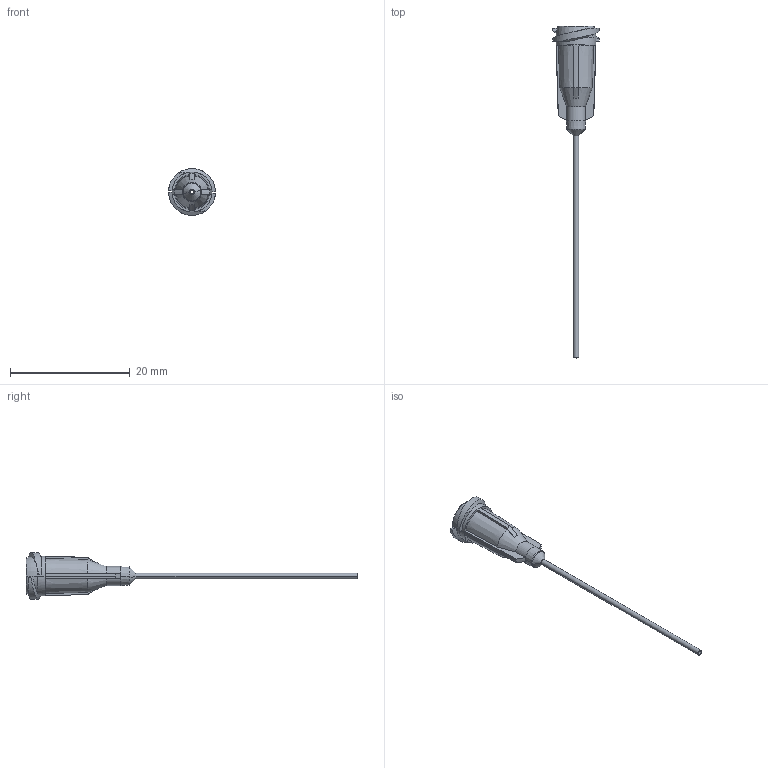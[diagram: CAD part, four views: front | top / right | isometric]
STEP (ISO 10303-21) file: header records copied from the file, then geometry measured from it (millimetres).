
FILE_DESCRIPTION (( 'STEP AP214' ), '1' );
FILE_NAME ('NORDSONEFD-7018168 TIP 20GA GP 023 X 15 PK.STEP', '2018-12-14T17:54:46', ( '' ), ( '' ), 'SwSTEP 2.0', 'SolidWorks 2018', '' );
FILE_SCHEMA (( 'AUTOMOTIVE_DESIGN' ));
Length unit declared in the file: inch
Products named in the file (1): NORDSONEFD-7018168 TIP 20GA GP 023 X 15 PK
Bounding box: 7.82 x 55.47 x 7.82 mm (x, y, z)
Volume: 276.3 mm3; surface area: 726.6 mm2
Topology: 1 solids, 1 shells, 98 faces, 232 edges, 140 vertices
Faces by surface type: plane 26, torus 22, cone 22, cylinder 16, bspline 12
Entity records: 3360 total; most frequent: CARTESIAN_POINT 1005, DIRECTION 468, ORIENTED_EDGE 464, EDGE_CURVE 232, AXIS2_PLACEMENT_3D 205, VERTEX_POINT 140, CIRCLE 118, EDGE_LOOP 104
